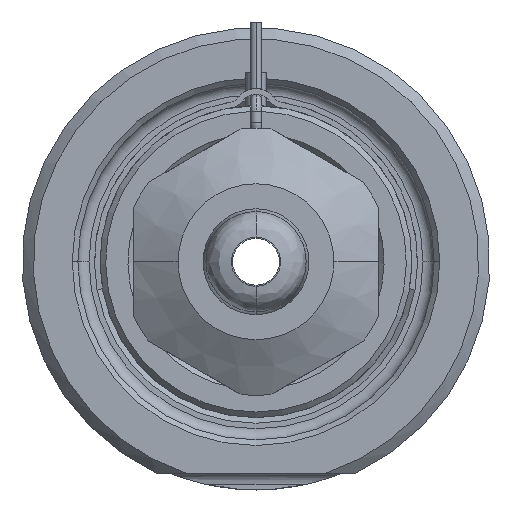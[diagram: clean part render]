
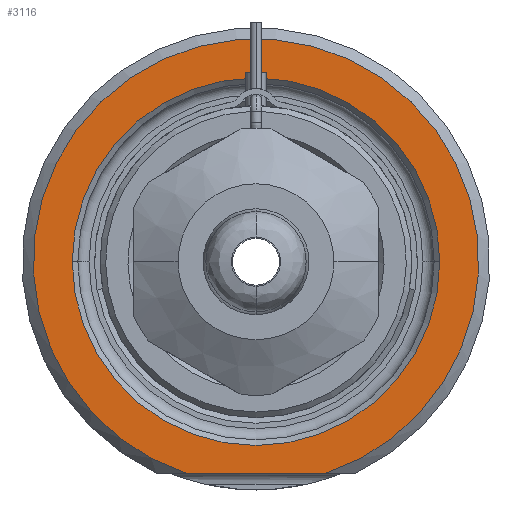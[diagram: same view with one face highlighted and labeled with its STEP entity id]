
A CAD part, front view. The second image highlights one B-rep face of the part: STEP entity #3116.
In plain terms, the highlighted planar face has unit normal (0, -1, 0).
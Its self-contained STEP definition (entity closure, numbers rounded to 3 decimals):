
#1=DIRECTION('',(1.,0.,0.));
#2=VECTOR('',#1,12.49);
#3=CARTESIAN_POINT('',(-6.245,0.,-19.));
#4=LINE('',#3,#2);
#5=CARTESIAN_POINT('',(0.,0.,0.));
#6=DIRECTION('',(0.,1.,0.));
#7=DIRECTION('',(-1.,0.,0.));
#8=AXIS2_PLACEMENT_3D('',#5,#6,#7);
#10=CARTESIAN_POINT('',(0.,0.,0.));
#11=DIRECTION('',(0.,1.,0.));
#12=DIRECTION('',(1.,0.,0.));
#13=AXIS2_PLACEMENT_3D('',#10,#11,#12);
#119=CARTESIAN_POINT('',(0.,0.,0.));
#120=DIRECTION('',(0.,-1.,0.));
#121=DIRECTION('',(0.312,0.,-0.95));
#122=AXIS2_PLACEMENT_3D('',#119,#120,#121);
#2591=CARTESIAN_POINT('',(-16.5,0.,0.));
#2592=CARTESIAN_POINT('',(16.5,0.,0.));
#2593=VERTEX_POINT('',#2591);
#2594=VERTEX_POINT('',#2592);
#2631=CARTESIAN_POINT('',(-6.245,0.,-19.));
#2632=CARTESIAN_POINT('',(6.245,0.,-19.));
#2633=VERTEX_POINT('',#2631);
#2634=VERTEX_POINT('',#2632);
#3099=CARTESIAN_POINT('',(0.,0.,0.));
#3100=DIRECTION('',(0.,-1.,0.));
#3101=DIRECTION('',(1.,0.,0.));
#3102=AXIS2_PLACEMENT_3D('',#3099,#3100,#3101);
#3103=PLANE('',#3102);
#3105=ORIENTED_EDGE('',*,*,#3104,.F.);
#3107=ORIENTED_EDGE('',*,*,#3106,.F.);
#3108=EDGE_LOOP('',(#3105,#3107));
#3109=FACE_OUTER_BOUND('',#3108,.F.);
#3111=ORIENTED_EDGE('',*,*,#3110,.F.);
#3113=ORIENTED_EDGE('',*,*,#3112,.F.);
#3114=EDGE_LOOP('',(#3111,#3113));
#3115=FACE_BOUND('',#3114,.F.);
#3116=ADVANCED_FACE('',(#3109,#3115),#3103,.T.);
#9=CIRCLE('',#8,16.5);
#14=CIRCLE('',#13,16.5);
#123=CIRCLE('',#122,20.);
#3104=EDGE_CURVE('',#2633,#2634,#4,.T.);
#3106=EDGE_CURVE('',#2634,#2633,#123,.T.);
#3110=EDGE_CURVE('',#2593,#2594,#9,.T.);
#3112=EDGE_CURVE('',#2594,#2593,#14,.T.);
